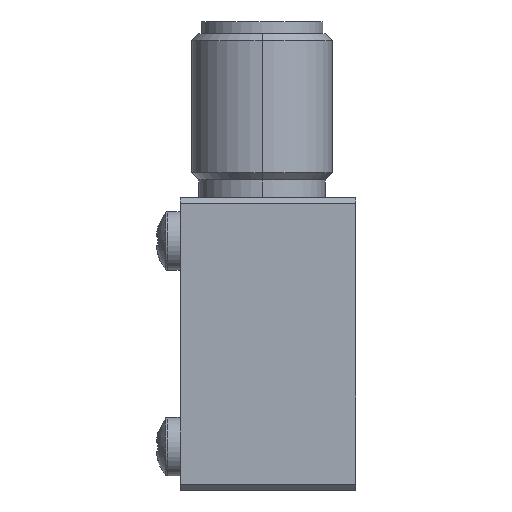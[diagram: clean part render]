
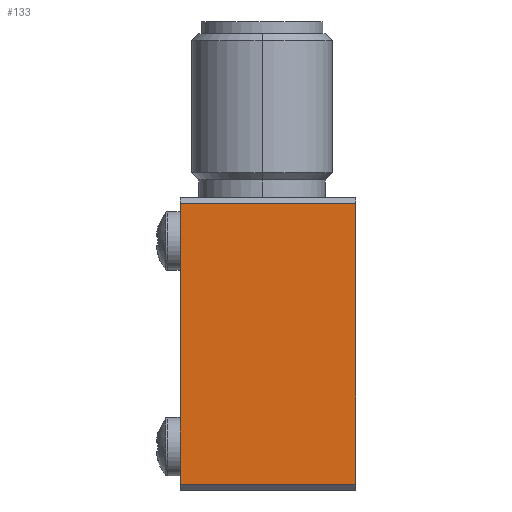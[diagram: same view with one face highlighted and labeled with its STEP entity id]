
A CAD part, left-side view. The second image highlights one B-rep face of the part: STEP entity #133.
In plain terms, the highlighted planar face has unit normal (-1, 0, 0).
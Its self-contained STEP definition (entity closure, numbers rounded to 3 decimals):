
#133 = ADVANCED_FACE ( 'NONE', ( #1164 ), #11762, .F. ) ;
#140 = VECTOR ( 'NONE', #10589, 1000. ) ;
#147 = LINE ( 'NONE', #9640, #4451 ) ;
#543 = VERTEX_POINT ( 'NONE', #6354 ) ;
#720 = CARTESIAN_POINT ( 'NONE',  ( -44., 0.02, 9.434 ) ) ;
#1075 = EDGE_CURVE ( 'NONE', #9246, #6721, #4980, .T. ) ;
#1164 = FACE_OUTER_BOUND ( 'NONE', #14679, .T. ) ;
#1221 = LINE ( 'NONE', #10727, #5319 ) ;
#1343 = CARTESIAN_POINT ( 'NONE',  ( -44., 0.02, -9.434 ) ) ;
#1541 = DIRECTION ( 'NONE',  ( 0., 0., 1. ) ) ;
#1668 = DIRECTION ( 'NONE',  ( 0., 0., 1. ) ) ;
#2101 = LINE ( 'NONE', #3333, #140 ) ;
#2181 = VERTEX_POINT ( 'NONE', #14610 ) ;
#2545 = VECTOR ( 'NONE', #5385, 1000. ) ;
#2579 = CARTESIAN_POINT ( 'NONE',  ( -44., 0., -12.5 ) ) ;
#2591 = LINE ( 'NONE', #9677, #6916 ) ;
#2640 = DIRECTION ( 'NONE',  ( 0., 0., -1. ) ) ;
#2971 = VECTOR ( 'NONE', #14812, 1000. ) ;
#2978 = CARTESIAN_POINT ( 'NONE',  ( -44., 0.02, 8.159 ) ) ;
#3133 = ORIENTED_EDGE ( 'NONE', *, *, #5129, .F. ) ;
#3224 = DIRECTION ( 'NONE',  ( 0., 0., 1. ) ) ;
#3333 = CARTESIAN_POINT ( 'NONE',  ( -44., 15., -12. ) ) ;
#3403 = VERTEX_POINT ( 'NONE', #11906 ) ;
#3580 = EDGE_CURVE ( 'NONE', #8406, #13203, #147, .T. ) ;
#3900 = DIRECTION ( 'NONE',  ( 0., 0., 1. ) ) ;
#4221 = LINE ( 'NONE', #2978, #2971 ) ;
#4264 = EDGE_CURVE ( 'NONE', #7847, #9246, #2591, .T. ) ;
#4451 = VECTOR ( 'NONE', #1541, 1000. ) ;
#4526 = ORIENTED_EDGE ( 'NONE', *, *, #12819, .T. ) ;
#4659 = CARTESIAN_POINT ( 'NONE',  ( -44., 15., -12.5 ) ) ;
#4730 = CARTESIAN_POINT ( 'NONE',  ( -44., 0.02, 8.159 ) ) ;
#4804 = ORIENTED_EDGE ( 'NONE', *, *, #9938, .F. ) ;
#4980 = LINE ( 'NONE', #2579, #7017 ) ;
#5039 = DIRECTION ( 'NONE',  ( 1., 0., 0. ) ) ;
#5075 = LINE ( 'NONE', #14421, #13422 ) ;
#5129 = EDGE_CURVE ( 'NONE', #6386, #2181, #13886, .T. ) ;
#5319 = VECTOR ( 'NONE', #9636, 1000. ) ;
#5385 = DIRECTION ( 'NONE',  ( 0., -1., 0. ) ) ;
#5601 = VECTOR ( 'NONE', #3224, 1000. ) ;
#5915 = CARTESIAN_POINT ( 'NONE',  ( -44., 0., 8.159 ) ) ;
#5938 = CARTESIAN_POINT ( 'NONE',  ( -44., 15., -12. ) ) ;
#6329 = VERTEX_POINT ( 'NONE', #11650 ) ;
#6354 = CARTESIAN_POINT ( 'NONE',  ( -44., 0.02, 8.159 ) ) ;
#6386 = VERTEX_POINT ( 'NONE', #5938 ) ;
#6721 = VERTEX_POINT ( 'NONE', #5915 ) ;
#6844 = DIRECTION ( 'NONE',  ( 0., 0., -1. ) ) ;
#6880 = CARTESIAN_POINT ( 'NONE',  ( -44., 15., -12.5 ) ) ;
#6916 = VECTOR ( 'NONE', #9609, 1000. ) ;
#6964 = CARTESIAN_POINT ( 'NONE',  ( -44., 0., 12. ) ) ;
#7017 = VECTOR ( 'NONE', #3900, 1000. ) ;
#7331 = DIRECTION ( 'NONE',  ( 0., -1., 0. ) ) ;
#7684 = VERTEX_POINT ( 'NONE', #9437 ) ;
#7737 = CARTESIAN_POINT ( 'NONE',  ( -44., 15., 12. ) ) ;
#7847 = VERTEX_POINT ( 'NONE', #13241 ) ;
#7893 = LINE ( 'NONE', #7737, #10667 ) ;
#8180 = ORIENTED_EDGE ( 'NONE', *, *, #9988, .F. ) ;
#8406 = VERTEX_POINT ( 'NONE', #10265 ) ;
#8480 = ORIENTED_EDGE ( 'NONE', *, *, #9030, .T. ) ;
#8678 = VECTOR ( 'NONE', #7331, 1000. ) ;
#8990 = DIRECTION ( 'NONE',  ( 0., 1., 0. ) ) ;
#9030 = EDGE_CURVE ( 'NONE', #6386, #6329, #2101, .T. ) ;
#9078 = EDGE_CURVE ( 'NONE', #3403, #543, #12837, .T. ) ;
#9246 = VERTEX_POINT ( 'NONE', #10478 ) ;
#9320 = ORIENTED_EDGE ( 'NONE', *, *, #3580, .T. ) ;
#9437 = CARTESIAN_POINT ( 'NONE',  ( -44., 0., -9.434 ) ) ;
#9593 = EDGE_CURVE ( 'NONE', #13203, #2181, #7893, .T. ) ;
#9609 = DIRECTION ( 'NONE',  ( 0., -1., 0. ) ) ;
#9636 = DIRECTION ( 'NONE',  ( 0., 0., -1. ) ) ;
#9640 = CARTESIAN_POINT ( 'NONE',  ( -44., 0., -12.5 ) ) ;
#9677 = CARTESIAN_POINT ( 'NONE',  ( -44., 0.02, -8.159 ) ) ;
#9936 = ORIENTED_EDGE ( 'NONE', *, *, #9593, .T. ) ;
#9938 = EDGE_CURVE ( 'NONE', #14270, #7684, #12019, .T. ) ;
#9988 = EDGE_CURVE ( 'NONE', #543, #6721, #4221, .T. ) ;
#10004 = AXIS2_PLACEMENT_3D ( 'NONE', #4659, #5039, #2640 ) ;
#10249 = ORIENTED_EDGE ( 'NONE', *, *, #9078, .F. ) ;
#10265 = CARTESIAN_POINT ( 'NONE',  ( -44., 0., 9.434 ) ) ;
#10478 = CARTESIAN_POINT ( 'NONE',  ( -44., 0., -8.159 ) ) ;
#10589 = DIRECTION ( 'NONE',  ( 0., -1., 0. ) ) ;
#10667 = VECTOR ( 'NONE', #8990, 1000. ) ;
#10727 = CARTESIAN_POINT ( 'NONE',  ( -44., 0.02, -9.434 ) ) ;
#10940 = EDGE_CURVE ( 'NONE', #6329, #7684, #5075, .T. ) ;
#11395 = LINE ( 'NONE', #720, #2545 ) ;
#11650 = CARTESIAN_POINT ( 'NONE',  ( -44., 0., -12. ) ) ;
#11742 = ORIENTED_EDGE ( 'NONE', *, *, #10940, .T. ) ;
#11762 = PLANE ( 'NONE',  #10004 ) ;
#11906 = CARTESIAN_POINT ( 'NONE',  ( -44., 0.02, 9.434 ) ) ;
#12019 = LINE ( 'NONE', #1343, #8678 ) ;
#12308 = CARTESIAN_POINT ( 'NONE',  ( -44., 0.02, -9.434 ) ) ;
#12324 = ORIENTED_EDGE ( 'NONE', *, *, #4264, .T. ) ;
#12819 = EDGE_CURVE ( 'NONE', #3403, #8406, #11395, .T. ) ;
#12837 = LINE ( 'NONE', #4730, #14312 ) ;
#13102 = ORIENTED_EDGE ( 'NONE', *, *, #1075, .T. ) ;
#13203 = VERTEX_POINT ( 'NONE', #6964 ) ;
#13241 = CARTESIAN_POINT ( 'NONE',  ( -44., 0.02, -8.159 ) ) ;
#13422 = VECTOR ( 'NONE', #1668, 1000. ) ;
#13886 = LINE ( 'NONE', #6880, #5601 ) ;
#14270 = VERTEX_POINT ( 'NONE', #12308 ) ;
#14312 = VECTOR ( 'NONE', #6844, 1000. ) ;
#14421 = CARTESIAN_POINT ( 'NONE',  ( -44., 0., -12.5 ) ) ;
#14546 = EDGE_CURVE ( 'NONE', #7847, #14270, #1221, .T. ) ;
#14610 = CARTESIAN_POINT ( 'NONE',  ( -44., 15., 12. ) ) ;
#14679 = EDGE_LOOP ( 'NONE', ( #9320, #9936, #3133, #8480, #11742, #4804, #15217, #12324, #13102, #8180, #10249, #4526 ) ) ;
#14812 = DIRECTION ( 'NONE',  ( 0., -1., 0. ) ) ;
#15217 = ORIENTED_EDGE ( 'NONE', *, *, #14546, .F. ) ;
